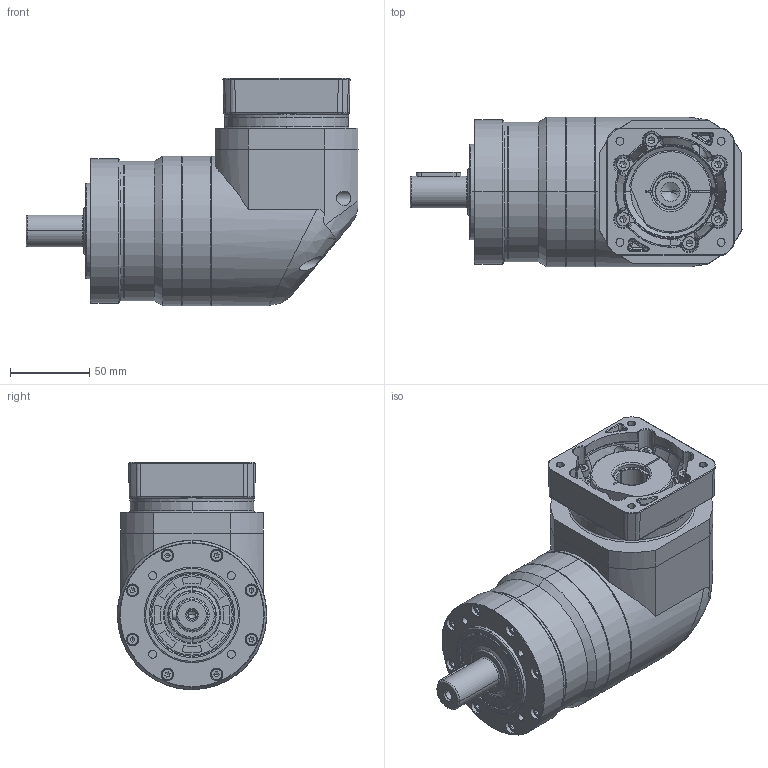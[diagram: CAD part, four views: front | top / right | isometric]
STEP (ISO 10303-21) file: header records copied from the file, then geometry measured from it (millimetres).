
FILE_DESCRIPTION (( 'STEP AP214' ), '1' );
FILE_NAME ('FER090-L1-S2-P2 19-70-90-M6.STEP', '2021-04-23T07:45:48', ( 'Microsoft' ), ( 'Microsoft China' ), 'SwSTEP 2.0', 'SolidWorks 2016', '' );
FILE_SCHEMA (( 'AUTOMOTIVE_DESIGN' ));
Length unit declared in the file: millimetre
Products named in the file (14): M5-12樓粟菜; 输入轴锁紧环 23-52-14; 输入轴FER090D-19; 输入法兰FER090D-70-90-M6; 输入端壳体FER090D; 珨撰眻褒眊极FER090D+菜え.; 怀堤傷褲极FER090D; 内齿圈FER080; A倰す瑩 6-28; M4-10樓粟菜; 蚐猾30526; 怀堤俴陎殤FER090-20粣; FER090-L1-S2-P2 19-70-90-M6; 怀堤傷褲极FER080
Assembly tree (25 placements, depth 2):
  FER090-L1-S2-P2 19-70-90-M6
    怀堤俴陎殤FER090-20粣
    蚐猾30526
    M4-10樓粟菜  x8
    A倰す瑩 6-28
    内齿圈FER080
    怀堤傷褲极FER090D
    珨撰眻褒眊极FER090D+菜え.
    输入端壳体FER090D
    输入法兰FER090D-70-90-M6
    输入轴FER090D-19
    输入轴锁紧环 23-52-14
    M5-12樓粟菜  x6
    怀堤傷褲极FER080
Bounding box: 209 x 94 x 143 mm (x, y, z)
Volume: 1378384.5 mm3; surface area: 200562.6 mm2
Topology: 11 solids, 39 shells, 1129 faces, 2726 edges, 1723 vertices
Faces by surface type: cylinder 377, plane 363, cone 177, bspline 128, torus 82, sphere 2
Entity records: 44550 total; most frequent: CARTESIAN_POINT 18135, ORIENTED_EDGE 3725, DIRECTION 3366, EDGE_CURVE 1869, AXIS2_PLACEMENT_3D 1386, VERTEX_POINT 1188, EDGE_LOOP 893, UNCERTAINTY_MEASURE_WITH_UNIT 819
